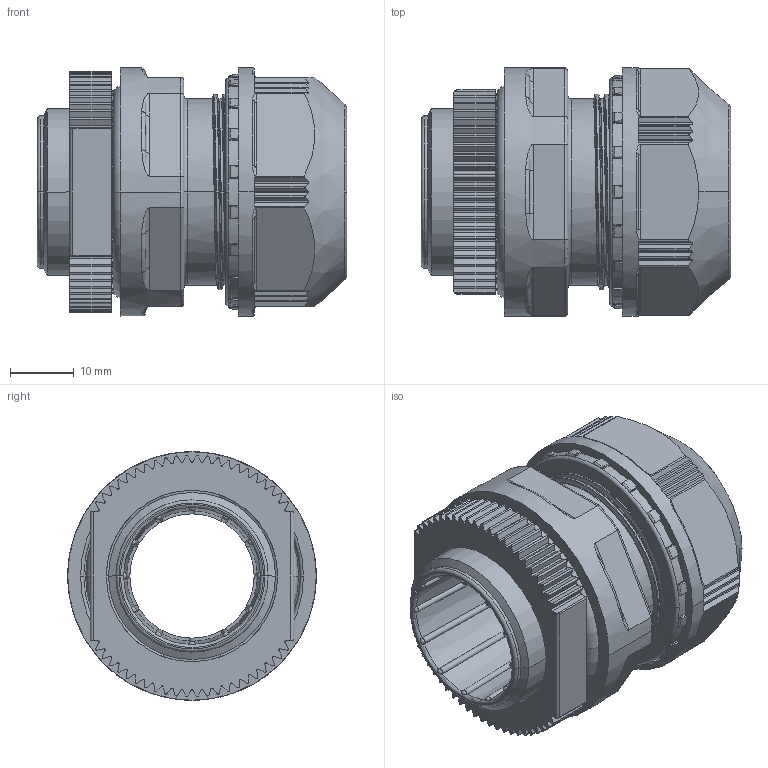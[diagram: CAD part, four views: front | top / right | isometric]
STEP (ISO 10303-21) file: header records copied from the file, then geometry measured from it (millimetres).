
FILE_DESCRIPTION(('Creo Elements/Direct Modeling STEP Export'),'2;1');
FILE_NAME('OA-W2219.stp','2017-03-17T15:23:02',(''),(''),'PTC Creo Elements/Direct Modeling STEP processor for AP214 (Solid Model)','PTC Creo Elements/Direct Modeling 19.0D 23-Nov-2015 (C) Parametric Technology GmbH','');
FILE_SCHEMA(('AUTOMOTIVE_DESIGN { 1 0 10303 214 1 1 1 1 }'));
Length unit declared in the file: millimetre
Products named in the file (4): ﾛｯｸﾅｯﾄ; ゴムブッシュ; OA-W2219; Assembly-1
Assembly tree (3 placements, depth 2):
  Assembly-1
    OA-W2219
    ゴムブッシュ
    ﾛｯｸﾅｯﾄ
Bounding box: 48.56 x 39 x 39 mm (x, y, z)
Volume: 29201.6 mm3; surface area: 18286.9 mm2
Topology: 3 solids, 3 shells, 995 faces, 2765 edges, 1704 vertices
Faces by surface type: plane 370, cylinder 367, cone 68, torus 66, sphere 58, bspline 54, extrusion 12
Entity records: 64373 total; most frequent: CARTESIAN_POINT 40309, ORIENTED_EDGE 5366, DIRECTION 4695, EDGE_CURVE 2683, AXIS2_PLACEMENT_3D 1750, VERTEX_POINT 1704, VECTOR 1195, LINE 1183
